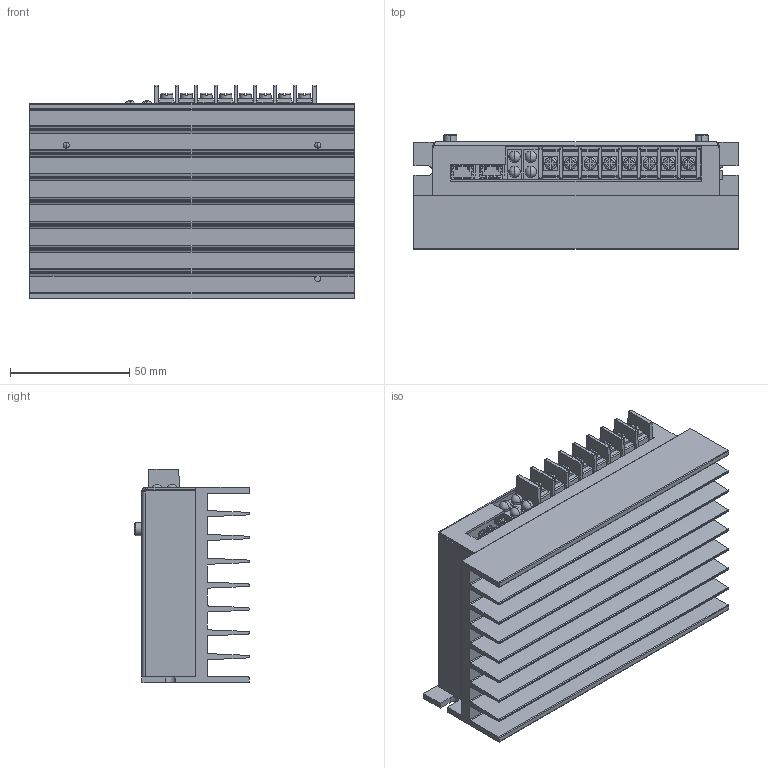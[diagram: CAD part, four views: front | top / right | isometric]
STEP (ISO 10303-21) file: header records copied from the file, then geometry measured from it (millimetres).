
FILE_DESCRIPTION( ('This file contains a STEP AP42 implementation' ,'as created by ZW3D STEP Interface translator.') ,'2;1' );
FILE_NAME( 'MMA06-LA50-00A_REF 241104.stp' ,'2411 4.1026 1', (''), ('ZWCAD Software Co.'), 'Version 1.0', 'ZW3D to STEP translator', '' );
FILE_SCHEMA(('AUTOMOTIVE_DESIGN { 1 0 10303 214 1 1 1 1 }'));
Length unit declared in the file: millimetre
Products named in the file (1): 0
Bounding box: 136 x 48 x 89.67 mm (x, y, z)
Surface area: 111538.6 mm2 (no closed solid volume)
Topology: 0 solids, 39 shells, 709 faces, 3418 edges, 2599 vertices
Faces by surface type: plane 502, cylinder 151, torus 32, cone 10, sphere 8, bspline 6
Entity records: 35406 total; most frequent: CARTESIAN_POINT 8885, ORIENTED_EDGE 4915, DIRECTION 4750, EDGE_CURVE 3350, VERTEX_POINT 2579, VECTOR 2400, LINE 2400, AXIS2_PLACEMENT_3D 1175
